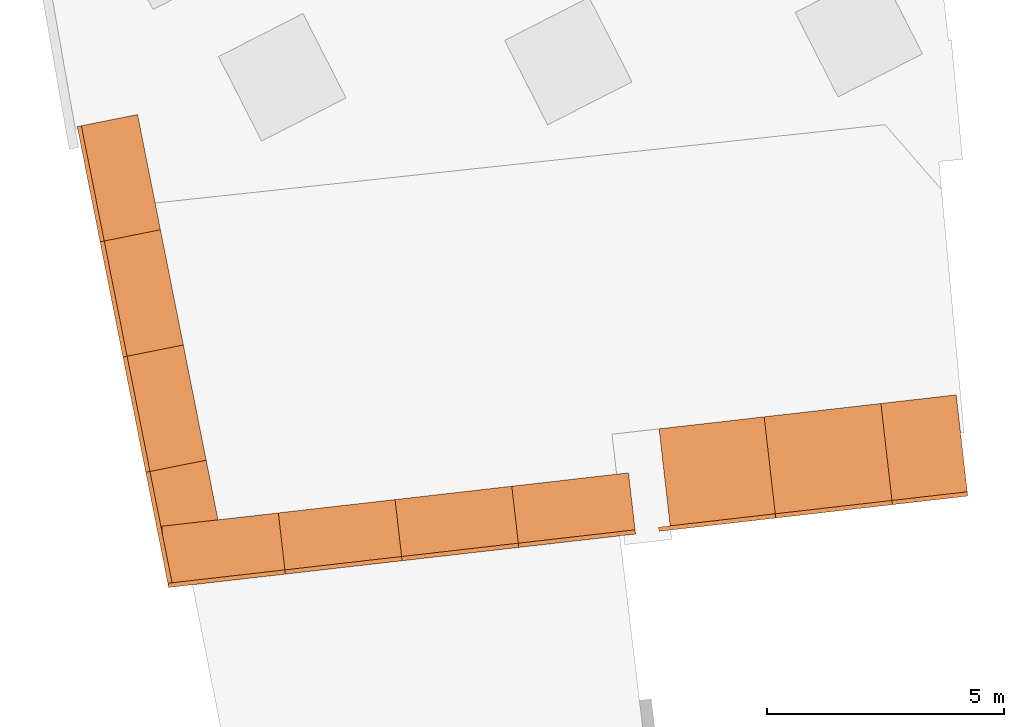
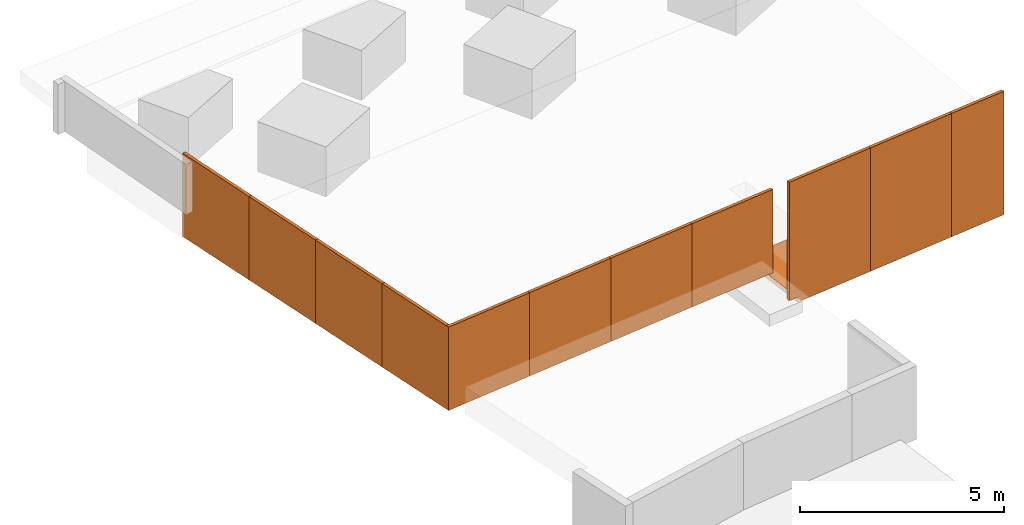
# One storey, part 3 of 3: 11 proxies.
"""IFC2X3 building model written with IfcOpenShell, lengths in centimetres."""

from ifc_helpers import new_model, entity, si_unit, converted_unit, derived_unit, direction, frame, origin, place, context, subcontext, project, spatial, polyline, outline, extrude, faceted_brep, source, transform, mapped, material, type_object, type_shapes, element, save


model = new_model("IFC2X3")

# Units and contexts
model_context = context("Model", 3, precision=0.001, world=origin(), true_north=direction((0.0, 1.0)))
body_context = subcontext(model_context, "Body", "Model", "MODEL_VIEW")
ifc_project = project(units=[si_unit("LENGTHUNIT", "METRE", prefix="CENTI"), si_unit("AREAUNIT", "SQUARE_METRE"), si_unit("VOLUMEUNIT", "CUBIC_METRE"), converted_unit("PLANEANGLEUNIT", "DEGREE", entity("IfcPlaneAngleMeasure", 0.017453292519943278), si_unit("PLANEANGLEUNIT", "RADIAN"), dimensions=[0, 0, 0, 0, 0, 0, 0]), derived_unit("THERMALTRANSMITTANCEUNIT", [(si_unit("MASSUNIT", "GRAM", prefix="KILO"), 1), (si_unit("THERMODYNAMICTEMPERATUREUNIT", "KELVIN"), -1), (si_unit("TIMEUNIT", "SECOND"), -3)])], contexts=[model_context])

# Site, building, storey
site_placement = place(None, frame((0.0, 0.0, 30720.0)))
site = spatial("IfcSite", under=ifc_project, at=site_placement, Name="Default", CompositionType="ELEMENT")
building_placement = place(site_placement, origin())
building = spatial("IfcBuilding", under=site, at=building_placement, CompositionType="ELEMENT")
storey_placement = place(building_placement, origin())
storey = spatial("IfcBuildingStorey", under=building, at=storey_placement, Name="RdC", CompositionType="ELEMENT", Elevation=0.0)

# Proxies
ifc_material = material(Name="00-Béton")
building_element_proxy_type_1 = type_object("IfcBuildingElementProxyType", Name="LBTS-26-m_sout.L9_250H-ESS-OLL:L9 250H x 130B", PredefinedType="NOTDEFINED", material=ifc_material)
shared_shape_1 = source(origin(), body_context, "Body", "SweptSolid", [
    extrude(outline(polyline([(-88.06666666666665, -46.33333333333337), (161.93333333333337, -46.33333333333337), (161.9333333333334, -37.33333333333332), (-73.86666666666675, -37.33333333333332), (-73.86666666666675, 83.66666666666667), (-88.06666666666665, 83.66666666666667), (-88.06666666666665, -46.33333333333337)])), frame((46.33333333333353, -124.0, 88.06666666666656), z_axis=(0.0, 1.0, 0.0), x_axis=(0.0, 0.0, 1.0)), (0.0, 0.0, 1.0), 248.00000000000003),
])
type_shapes(building_element_proxy_type_1, [shared_shape_1])
for number, where, z_axis, x_axis in (
    (1, (27911.10786431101, -13476.304755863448, -160.0), (0.0, 0.0, 1.0), (-0.11364408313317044, 0.9935215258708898, 0.0)),
    (2, (27664.71452589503, -13504.488488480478, -160.0), (0.0, 0.0, 1.0), (-0.11364408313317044, 0.9935215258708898, 0.0)),
    (3, (27418.32118747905, -13532.672221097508, -160.0), (0.0, 0.0, 1.0), (-0.11364408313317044, 0.9935215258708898, 0.0)),
    (4, (27171.927849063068, -13560.855953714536, -160.0), (0.0, 0.0, 1.0), (-0.11364408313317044, 0.9935215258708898, 0.0)),
    (5, (26976.30353092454, -13210.066694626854, -160.0), (0.0, 0.0, 1.0), (0.9808632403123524, 0.19469798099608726, 0.0)),
    (6, (26928.018431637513, -12966.812611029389, -160.0), (0.0, 0.0, 1.0), (0.9808632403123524, 0.19469798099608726, 0.0)),
    (7, (26879.733332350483, -12723.558527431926, -160.0), (0.0, 0.0, 1.0), (0.9808632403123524, 0.19469798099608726, 0.0)),
):
    element("IfcBuildingElementProxy", number, at=place(storey_placement, frame(where, z_axis=z_axis, x_axis=x_axis)), inside=storey, type_object=building_element_proxy_type_1, material=ifc_material, Name="LBTS-26-m_sout.L9_250H-ESS-OLL:L9 250H x 130B", context=body_context, shape_type="MappedRepresentation", body=[
        mapped(shared_shape_1, transform((0.0, 0.0, 0.0), scale=1.0)),
    ])
building_element_proxy_type_2 = type_object("IfcBuildingElementProxyType", Name="LBTS-26-m_sout.L.370H-ESS-OLL:370*215 (theorique)", PredefinedType="NOTDEFINED", material=ifc_material)
shared_shape_2 = source(origin(), body_context, "Body", "Brep", [
    faceted_brep([(28083.980609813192, -13456.530685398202, 90.0), (28082.957813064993, -13447.588991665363, 90.0), (28082.957813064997, -13447.588991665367, -265.0), (28083.980609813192, -13456.530685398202, -265.0), (28330.373948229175, -13428.346952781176, -280.0), (28305.940470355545, -13214.739824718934, -280.0), (28305.940470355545, -13214.739824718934, -265.0), (28329.35115148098, -13419.405259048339, -265.0), (28329.351151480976, -13419.405259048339, 90.0), (28330.373948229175, -13428.346952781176, 90.0), (28108.535940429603, -13453.721920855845, -265.0), (28108.535940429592, -13453.721920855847, -280.0), (28107.513143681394, -13444.78022712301, -265.0), (28084.102462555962, -13240.114792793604, -265.0), (28084.102462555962, -13240.114792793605, -280.0)], [[[0, 1, 2, 3]], [[4, 5, 6, 7, 8, 9]], [[4, 9, 0, 3, 10, 11]], [[1, 0, 9, 8]], [[2, 1, 8, 7, 12]], [[7, 6, 13, 12]], [[6, 5, 14, 13]], [[5, 4, 11, 14]], [[10, 12, 13, 14, 11]], [[12, 10, 3, 2]]]),
])
type_shapes(building_element_proxy_type_2, [shared_shape_2])
proxy_1_placement = place(storey_placement, origin())
element("IfcBuildingElementProxy", 8, at=proxy_1_placement, inside=storey, type_object=building_element_proxy_type_2, material=ifc_material, Name="LBTS-26-m_sout.L.370H-ESS-OLL:370*215 (theorique)", context=body_context, shape_type="MappedRepresentation", body=[
    mapped(shared_shape_2, transform((0.0, 0.0, 0.0), scale=1.0)),
])
building_element_proxy_type_3 = type_object("IfcBuildingElementProxyType", Name="LBTS-26-m_sout.L.370H-ESS-OLL:370*215 (theorique)", PredefinedType="NOTDEFINED", material=ifc_material)
shared_shape_3 = source(origin(), body_context, "Body", "SweptSolid", [
    extrude(outline(polyline([(-128.3333333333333, -74.6666666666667), (241.66666666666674, -74.6666666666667), (241.66666666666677, -65.66666666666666), (-113.33333333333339, -65.66666666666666), (-113.33333333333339, 140.33333333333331), (-128.3333333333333, 140.33333333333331), (-128.3333333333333, -74.6666666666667)])), frame((74.66666666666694, -124.0, 128.33333333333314), z_axis=(0.0, 1.0, 0.0), x_axis=(0.0, 0.0, 1.0)), (0.0, 0.0, 1.0), 248.00000000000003),
])
type_shapes(building_element_proxy_type_3, [shared_shape_3])
proxy_2_placement = place(storey_placement, frame((28453.570617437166, -13414.25508647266, -280.0), z_axis=(0.0, 0.0, 1.0), x_axis=(-0.11364408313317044, 0.9935215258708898, 0.0)))
element("IfcBuildingElementProxy", 9, at=proxy_2_placement, inside=storey, type_object=building_element_proxy_type_3, material=ifc_material, Name="LBTS-26-m_sout.L.370H-ESS-OLL:370*215 (theorique)", context=body_context, shape_type="MappedRepresentation", body=[
    mapped(shared_shape_3, transform((0.0, 0.0, 0.0), scale=1.0)),
])
building_element_proxy_type_4 = type_object("IfcBuildingElementProxyType", Name="LBTS-26-m_sout.L.370H-ESS-OLL:370*215 (theorique) coupé à 160", PredefinedType="NOTDEFINED", material=ifc_material)
shared_shape_4 = source(origin(), body_context, "Body", "SweptSolid", [
    extrude(outline(polyline([(-128.3333333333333, -74.6666666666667), (241.66666666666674, -74.6666666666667), (241.66666666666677, -65.66666666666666), (-113.33333333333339, -65.66666666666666), (-113.33333333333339, 140.33333333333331), (-128.3333333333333, 140.33333333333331), (-128.3333333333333, -74.6666666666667)])), frame((74.66666666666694, -80.0, 128.33333333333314), z_axis=(0.0, 1.0, 0.0), x_axis=(0.0, 0.0, 1.0)), (0.0, 0.0, 1.0), 160.0),
])
type_shapes(building_element_proxy_type_4, [shared_shape_4])
proxy_3_placement = place(storey_placement, frame((28656.24900871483, -13391.071693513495, -280.0), z_axis=(0.0, 0.0, 1.0), x_axis=(-0.11364408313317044, 0.9935215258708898, 0.0)))
element("IfcBuildingElementProxy", 10, at=proxy_3_placement, inside=storey, type_object=building_element_proxy_type_4, material=ifc_material, Name="LBTS-26-m_sout.L.370H-ESS-OLL:370*215 (theorique) coupé à 160", context=body_context, shape_type="MappedRepresentation", body=[
    mapped(shared_shape_4, transform((0.0, 0.0, 0.0), scale=1.0)),
])
building_element_proxy_type_5 = type_object("IfcBuildingElementProxyType", Name="LBTS-26-m_sout.L9_250H-ESS-OLL:L9 250H x 130B", PredefinedType="NOTDEFINED", material=ifc_material)
shared_shape_5 = source(origin(), body_context, "Body", "Brep", [
    faceted_brep([(27000.44608056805, -13331.693736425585, -160.0), (27000.44608056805, -13331.693736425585, 90.0), (27009.273849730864, -13329.94145459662, 90.0), (27009.273849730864, -13329.94145459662, -145.80000000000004), (27127.958301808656, -13306.382998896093, -145.7999999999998), (27127.958301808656, -13306.382998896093, -160.0), (27048.731179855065, -13574.947820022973, -160.0), (27048.73117985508, -13574.947820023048, 90.0), (27047.708383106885, -13566.006126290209, 90.0), (27055.94486569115, -13565.063995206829, 90.0), (27055.94486569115, -13565.063995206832, -145.8000000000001), (27036.253077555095, -13465.859314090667, -145.80000000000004), (27033.95744904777, -13445.790021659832, -145.80000000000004), (27152.92886415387, -13432.181461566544, -145.80000000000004), (27152.92886415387, -13432.181461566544, -160.0), (27033.957449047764, -13445.790021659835, -160.0), (27047.70838310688, -13566.00612629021, -145.80000000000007)], [[[0, 1, 2, 3, 4, 5]], [[1, 0, 6, 7]], [[2, 1, 7, 8, 9]], [[3, 2, 9, 10, 11]], [[4, 3, 11, 12, 13]], [[5, 4, 13, 14]], [[0, 5, 14, 15, 6]], [[16, 8, 7, 6, 15, 12, 11]], [[8, 16, 10, 9]], [[16, 11, 10]], [[12, 15, 14, 13]]]),
])
type_shapes(building_element_proxy_type_5, [shared_shape_5])
proxy_4_placement = place(storey_placement, origin())
element("IfcBuildingElementProxy", 11, at=proxy_4_placement, inside=storey, type_object=building_element_proxy_type_5, material=ifc_material, Name="LBTS-26-m_sout.L9_250H-ESS-OLL:L9 250H x 130B", context=body_context, shape_type="MappedRepresentation", body=[
    mapped(shared_shape_5, transform((0.0, 0.0, 0.0), scale=1.0)),
])

save(model, "model.ifc")
